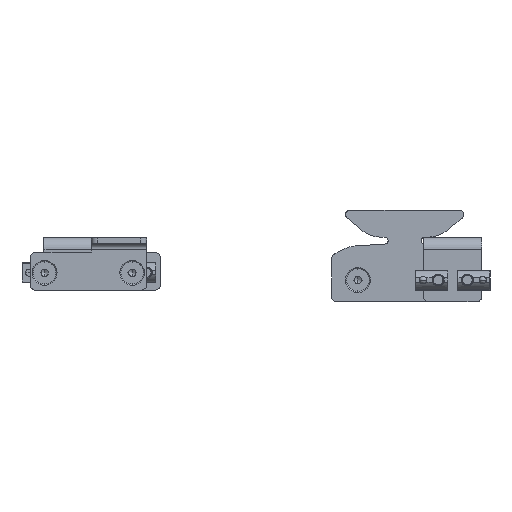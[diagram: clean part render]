
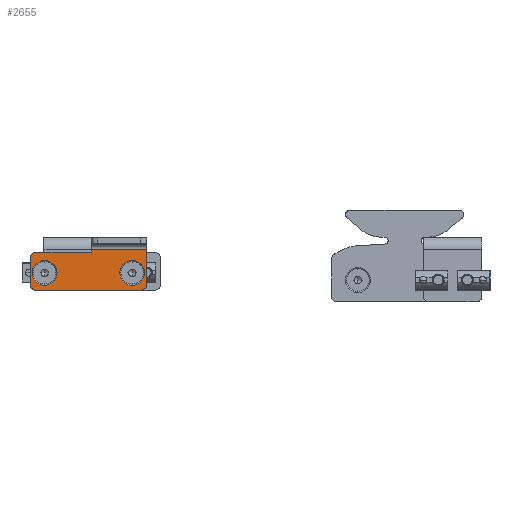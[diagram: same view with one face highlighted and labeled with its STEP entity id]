
A CAD part, left-side view. The second image highlights one B-rep face of the part: STEP entity #2655.
In plain terms, the highlighted planar face has unit normal (-1, 0, 0) as drawn and (0, 0, 1) by its records, which use the part's own axes.
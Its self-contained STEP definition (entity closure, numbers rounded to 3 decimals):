
#12 = FACE_OUTER_BOUND ( 'NONE', #558, .T. ) ;
#66 = DIRECTION ( 'NONE',  ( 0., 0., -1. ) ) ;
#76 = CARTESIAN_POINT ( 'NONE',  ( 24., 10., 4. ) ) ;
#180 = EDGE_CURVE ( 'NONE', #1462, #535, #4740, .T. ) ;
#195 = VECTOR ( 'NONE', #3337, 1000. ) ;
#210 = VERTEX_POINT ( 'NONE', #1607 ) ;
#356 = VERTEX_POINT ( 'NONE', #4991 ) ;
#394 = CARTESIAN_POINT ( 'NONE',  ( 24., 70., 4. ) ) ;
#429 = EDGE_CURVE ( 'NONE', #356, #5318, #4954, .T. ) ;
#457 = CARTESIAN_POINT ( 'NONE',  ( 0., 0., 4. ) ) ;
#476 = VERTEX_POINT ( 'NONE', #1612 ) ;
#481 = ORIENTED_EDGE ( 'NONE', *, *, #3866, .T. ) ;
#515 = DIRECTION ( 'NONE',  ( 1., 0., 0. ) ) ;
#535 = VERTEX_POINT ( 'NONE', #2434 ) ;
#548 = VERTEX_POINT ( 'NONE', #2015 ) ;
#558 = EDGE_LOOP ( 'NONE', ( #1301, #3131, #3769, #4419, #4261, #1715, #3652, #3929, #2874 ) ) ;
#595 = EDGE_CURVE ( 'NONE', #476, #1279, #4398, .T. ) ;
#667 = EDGE_CURVE ( 'NONE', #1462, #3013, #5419, .T. ) ;
#685 = VECTOR ( 'NONE', #4706, 1000. ) ;
#777 = DIRECTION ( 'NONE',  ( 0., 1., 0. ) ) ;
#921 = AXIS2_PLACEMENT_3D ( 'NONE', #4717, #1678, #4278 ) ;
#947 = AXIS2_PLACEMENT_3D ( 'NONE', #394, #3354, #1147 ) ;
#1071 = DIRECTION ( 'NONE',  ( 0., 0., -1. ) ) ;
#1147 = DIRECTION ( 'NONE',  ( 1., 0., 0. ) ) ;
#1171 = CARTESIAN_POINT ( 'NONE',  ( 8., 0., 4. ) ) ;
#1185 = CARTESIAN_POINT ( 'NONE',  ( 22., 0., 4. ) ) ;
#1202 = EDGE_CURVE ( 'NONE', #2801, #210, #3504, .T. ) ;
#1279 = VERTEX_POINT ( 'NONE', #2062 ) ;
#1301 = ORIENTED_EDGE ( 'NONE', *, *, #180, .T. ) ;
#1311 = EDGE_LOOP ( 'NONE', ( #2996, #3497 ) ) ;
#1366 = DIRECTION ( 'NONE',  ( 1., 0., 0. ) ) ;
#1462 = VERTEX_POINT ( 'NONE', #4551 ) ;
#1582 = DIRECTION ( 'NONE',  ( 1., 0., 0. ) ) ;
#1607 = CARTESIAN_POINT ( 'NONE',  ( 15.5, 10., 4. ) ) ;
#1612 = CARTESIAN_POINT ( 'NONE',  ( 32., 80., 4. ) ) ;
#1678 = DIRECTION ( 'NONE',  ( 0., 0., -1. ) ) ;
#1715 = ORIENTED_EDGE ( 'NONE', *, *, #5007, .T. ) ;
#1761 = AXIS2_PLACEMENT_3D ( 'NONE', #457, #3967, #1366 ) ;
#1762 = CARTESIAN_POINT ( 'NONE',  ( 14., 4., 4. ) ) ;
#1969 = AXIS2_PLACEMENT_3D ( 'NONE', #76, #3122, #515 ) ;
#1987 = LINE ( 'NONE', #2857, #5314 ) ;
#2015 = CARTESIAN_POINT ( 'NONE',  ( 36., 4., 4. ) ) ;
#2030 = AXIS2_PLACEMENT_3D ( 'NONE', #2512, #5540, #2942 ) ;
#2062 = CARTESIAN_POINT ( 'NONE',  ( 36., 76., 4. ) ) ;
#2199 = DIRECTION ( 'NONE',  ( 1., 0., 0. ) ) ;
#2226 = DIRECTION ( 'NONE',  ( 1., 0., 0. ) ) ;
#2324 = LINE ( 'NONE', #4838, #4643 ) ;
#2381 = LINE ( 'NONE', #1171, #195 ) ;
#2397 = CARTESIAN_POINT ( 'NONE',  ( 32.5, 70., 4. ) ) ;
#2434 = CARTESIAN_POINT ( 'NONE',  ( 32., 0., 4. ) ) ;
#2512 = CARTESIAN_POINT ( 'NONE',  ( 24., 70., 4. ) ) ;
#2533 = VERTEX_POINT ( 'NONE', #3016 ) ;
#2655 = ADVANCED_FACE ( 'NONE', ( #5008, #3968, #12 ), #2661, .T. ) ;
#2661 = PLANE ( 'NONE',  #1761 ) ;
#2697 = CARTESIAN_POINT ( 'NONE',  ( 32., 4., 4. ) ) ;
#2801 = VERTEX_POINT ( 'NONE', #5339 ) ;
#2808 = VECTOR ( 'NONE', #777, 1000. ) ;
#2857 = CARTESIAN_POINT ( 'NONE',  ( 9., 42., 4. ) ) ;
#2874 = ORIENTED_EDGE ( 'NONE', *, *, #667, .F. ) ;
#2942 = DIRECTION ( 'NONE',  ( 1., 0., 0. ) ) ;
#2996 = ORIENTED_EDGE ( 'NONE', *, *, #3533, .T. ) ;
#3013 = VERTEX_POINT ( 'NONE', #4522 ) ;
#3016 = CARTESIAN_POINT ( 'NONE',  ( 8., 42., 4. ) ) ;
#3115 = DIRECTION ( 'NONE',  ( 1., 0., 0. ) ) ;
#3122 = DIRECTION ( 'NONE',  ( 0., 0., -1. ) ) ;
#3131 = ORIENTED_EDGE ( 'NONE', *, *, #4570, .F. ) ;
#3144 = LINE ( 'NONE', #4265, #685 ) ;
#3212 = CIRCLE ( 'NONE', #1969, 8.5 ) ;
#3337 = DIRECTION ( 'NONE',  ( 0., -1., 0. ) ) ;
#3354 = DIRECTION ( 'NONE',  ( 0., 0., -1. ) ) ;
#3380 = CARTESIAN_POINT ( 'NONE',  ( 10., 21., 4. ) ) ;
#3415 = AXIS2_PLACEMENT_3D ( 'NONE', #2697, #66, #3115 ) ;
#3497 = ORIENTED_EDGE ( 'NONE', *, *, #429, .T. ) ;
#3504 = CIRCLE ( 'NONE', #921, 8.5 ) ;
#3533 = EDGE_CURVE ( 'NONE', #5318, #356, #5595, .T. ) ;
#3567 = ORIENTED_EDGE ( 'NONE', *, *, #1202, .T. ) ;
#3589 = EDGE_CURVE ( 'NONE', #548, #1279, #3144, .T. ) ;
#3652 = ORIENTED_EDGE ( 'NONE', *, *, #4209, .T. ) ;
#3735 = DIRECTION ( 'NONE',  ( 1., 0., 0. ) ) ;
#3769 = ORIENTED_EDGE ( 'NONE', *, *, #3589, .T. ) ;
#3816 = EDGE_CURVE ( 'NONE', #3951, #476, #2324, .T. ) ;
#3866 = EDGE_CURVE ( 'NONE', #210, #2801, #3212, .T. ) ;
#3923 = VERTEX_POINT ( 'NONE', #4898 ) ;
#3929 = ORIENTED_EDGE ( 'NONE', *, *, #4338, .F. ) ;
#3951 = VERTEX_POINT ( 'NONE', #4477 ) ;
#3956 = LINE ( 'NONE', #3380, #2808 ) ;
#3967 = DIRECTION ( 'NONE',  ( 0., 0., 1. ) ) ;
#3968 = FACE_BOUND ( 'NONE', #1311, .T. ) ;
#4153 = CIRCLE ( 'NONE', #3415, 4. ) ;
#4209 = EDGE_CURVE ( 'NONE', #2533, #3923, #1987, .T. ) ;
#4261 = ORIENTED_EDGE ( 'NONE', *, *, #3816, .F. ) ;
#4265 = CARTESIAN_POINT ( 'NONE',  ( 36., 40., 4. ) ) ;
#4278 = DIRECTION ( 'NONE',  ( 1., 0., 0. ) ) ;
#4312 = AXIS2_PLACEMENT_3D ( 'NONE', #1762, #5240, #2199 ) ;
#4338 = EDGE_CURVE ( 'NONE', #3013, #3923, #3956, .T. ) ;
#4398 = CIRCLE ( 'NONE', #5098, 4. ) ;
#4419 = ORIENTED_EDGE ( 'NONE', *, *, #595, .F. ) ;
#4477 = CARTESIAN_POINT ( 'NONE',  ( 8., 80., 4. ) ) ;
#4522 = CARTESIAN_POINT ( 'NONE',  ( 10., 4., 4. ) ) ;
#4551 = CARTESIAN_POINT ( 'NONE',  ( 14., 0., 4. ) ) ;
#4570 = EDGE_CURVE ( 'NONE', #548, #535, #4153, .T. ) ;
#4611 = VECTOR ( 'NONE', #5617, 1000. ) ;
#4643 = VECTOR ( 'NONE', #2226, 1000. ) ;
#4706 = DIRECTION ( 'NONE',  ( 0., 1., 0. ) ) ;
#4717 = CARTESIAN_POINT ( 'NONE',  ( 24., 10., 4. ) ) ;
#4740 = LINE ( 'NONE', #1185, #4611 ) ;
#4838 = CARTESIAN_POINT ( 'NONE',  ( 22., 80., 4. ) ) ;
#4898 = CARTESIAN_POINT ( 'NONE',  ( 10., 42., 4. ) ) ;
#4954 = CIRCLE ( 'NONE', #947, 8.5 ) ;
#4991 = CARTESIAN_POINT ( 'NONE',  ( 15.5, 70., 4. ) ) ;
#5007 = EDGE_CURVE ( 'NONE', #3951, #2533, #2381, .T. ) ;
#5008 = FACE_BOUND ( 'NONE', #5264, .T. ) ;
#5098 = AXIS2_PLACEMENT_3D ( 'NONE', #5560, #1071, #1582 ) ;
#5240 = DIRECTION ( 'NONE',  ( 0., 0., -1. ) ) ;
#5264 = EDGE_LOOP ( 'NONE', ( #3567, #481 ) ) ;
#5314 = VECTOR ( 'NONE', #3735, 1000. ) ;
#5318 = VERTEX_POINT ( 'NONE', #2397 ) ;
#5339 = CARTESIAN_POINT ( 'NONE',  ( 32.5, 10., 4. ) ) ;
#5419 = CIRCLE ( 'NONE', #4312, 4. ) ;
#5540 = DIRECTION ( 'NONE',  ( 0., 0., -1. ) ) ;
#5560 = CARTESIAN_POINT ( 'NONE',  ( 32., 76., 4. ) ) ;
#5595 = CIRCLE ( 'NONE', #2030, 8.5 ) ;
#5617 = DIRECTION ( 'NONE',  ( 1., 0., 0. ) ) ;
